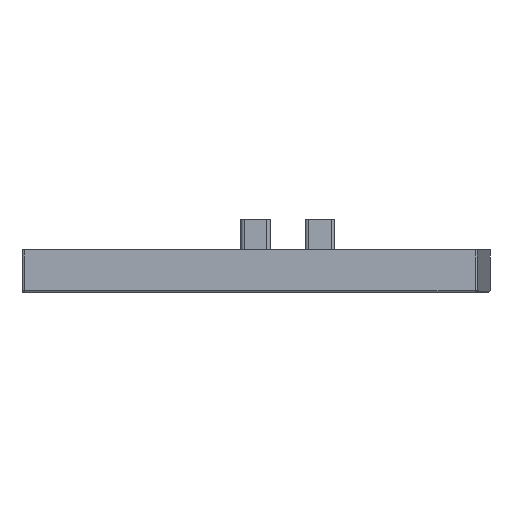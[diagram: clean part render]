
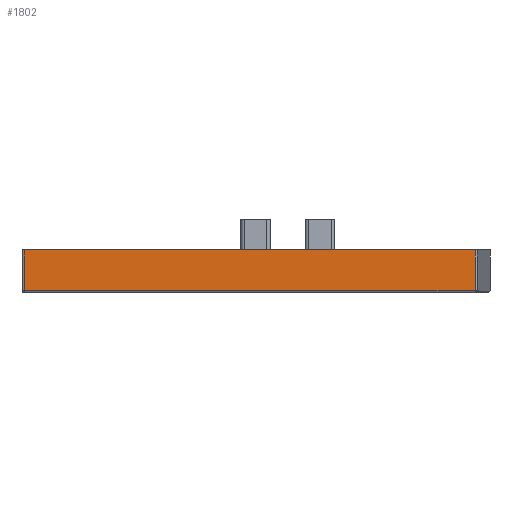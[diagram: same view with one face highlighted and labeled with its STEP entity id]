
A CAD part, left-side view. The second image highlights one B-rep face of the part: STEP entity #1802.
In plain terms, the highlighted planar face has unit normal (-1, 0, 0).
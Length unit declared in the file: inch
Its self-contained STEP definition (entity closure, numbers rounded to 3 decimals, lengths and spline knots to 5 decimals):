
#20 = CARTESIAN_POINT ( 'NONE',  ( -2.6155, 2.868, 0.13 ) ) ;
#56 = DIRECTION ( 'NONE',  ( 0., 0., 1. ) ) ;
#98 = DIRECTION ( 'NONE',  ( 0., 0., -1. ) ) ;
#106 = CARTESIAN_POINT ( 'NONE',  ( -2.6155, 0.09178, -0.12 ) ) ;
#126 = VERTEX_POINT ( 'NONE', #2000 ) ;
#133 = VECTOR ( 'NONE', #1320, 39.37008 ) ;
#186 = FACE_OUTER_BOUND ( 'NONE', #1080, .T. ) ;
#242 = VECTOR ( 'NONE', #856, 39.37008 ) ;
#271 = AXIS2_PLACEMENT_3D ( 'NONE', #20, #328, #1360 ) ;
#328 = DIRECTION ( 'NONE',  ( 1., 0., 0. ) ) ;
#400 = ORIENTED_EDGE ( 'NONE', *, *, #1950, .T. ) ;
#445 = VECTOR ( 'NONE', #56, 39.37008 ) ;
#494 = VERTEX_POINT ( 'NONE', #106 ) ;
#643 = LINE ( 'NONE', #654, #133 ) ;
#651 = ORIENTED_EDGE ( 'NONE', *, *, #1129, .T. ) ;
#654 = CARTESIAN_POINT ( 'NONE',  ( -2.6155, 2.868, -0.12 ) ) ;
#748 = CARTESIAN_POINT ( 'NONE',  ( -2.6155, 2.853, 0.13 ) ) ;
#856 = DIRECTION ( 'NONE',  ( 0., -1., 0. ) ) ;
#1080 = EDGE_LOOP ( 'NONE', ( #2186, #400, #651, #1621 ) ) ;
#1129 = EDGE_CURVE ( 'NONE', #494, #1724, #1589, .T. ) ;
#1288 = CARTESIAN_POINT ( 'NONE',  ( -2.6155, 0.09178, 0.13 ) ) ;
#1303 = VECTOR ( 'NONE', #98, 39.37008 ) ;
#1320 = DIRECTION ( 'NONE',  ( 0., -1., 0. ) ) ;
#1360 = DIRECTION ( 'NONE',  ( 0., 0., -1. ) ) ;
#1462 = CARTESIAN_POINT ( 'NONE',  ( -2.6155, 0.09178, 0.13 ) ) ;
#1517 = LINE ( 'NONE', #2042, #242 ) ;
#1539 = EDGE_CURVE ( 'NONE', #126, #1940, #1628, .T. ) ;
#1589 = LINE ( 'NONE', #1288, #445 ) ;
#1621 = ORIENTED_EDGE ( 'NONE', *, *, #2005, .F. ) ;
#1628 = LINE ( 'NONE', #748, #1303 ) ;
#1724 = VERTEX_POINT ( 'NONE', #1462 ) ;
#1802 = ADVANCED_FACE ( 'NONE', ( #186 ), #2192, .F. ) ;
#1940 = VERTEX_POINT ( 'NONE', #2008 ) ;
#1950 = EDGE_CURVE ( 'NONE', #1940, #494, #643, .T. ) ;
#2000 = CARTESIAN_POINT ( 'NONE',  ( -2.6155, 2.853, 0.13 ) ) ;
#2005 = EDGE_CURVE ( 'NONE', #126, #1724, #1517, .T. ) ;
#2008 = CARTESIAN_POINT ( 'NONE',  ( -2.6155, 2.853, -0.12 ) ) ;
#2042 = CARTESIAN_POINT ( 'NONE',  ( -2.6155, 2.868, 0.13 ) ) ;
#2186 = ORIENTED_EDGE ( 'NONE', *, *, #1539, .T. ) ;
#2192 = PLANE ( 'NONE',  #271 ) ;
